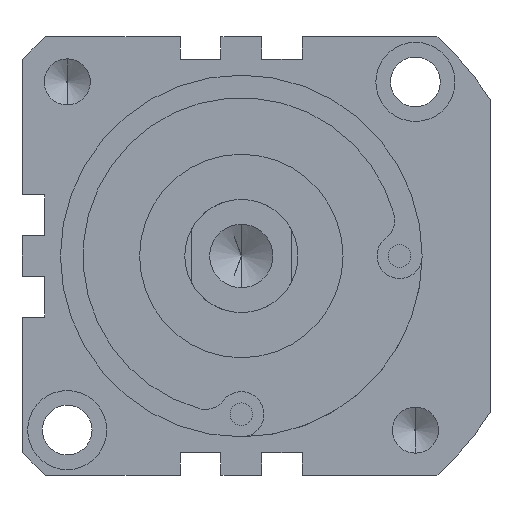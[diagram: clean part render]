
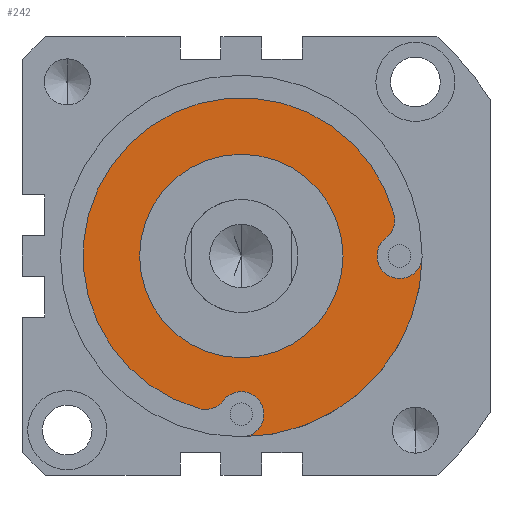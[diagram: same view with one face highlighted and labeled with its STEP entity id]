
A CAD part, front view. The second image highlights one B-rep face of the part: STEP entity #242.
In plain terms, the highlighted planar face has unit normal (0, -1, 0).
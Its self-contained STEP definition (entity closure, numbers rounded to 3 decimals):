
#15 = DIRECTION ( 'NONE',  ( 0., 0., -1. ) ) ;
#101 = FACE_BOUND ( 'NONE', #307, .T. ) ;
#108 = EDGE_CURVE ( 'NONE', #1350, #2079, #2213, .T. ) ;
#114 = DIRECTION ( 'NONE',  ( 0., 0., 1. ) ) ;
#155 = FACE_OUTER_BOUND ( 'NONE', #2412, .T. ) ;
#224 = VERTEX_POINT ( 'NONE', #778 ) ;
#242 = ADVANCED_FACE ( 'NONE', ( #155, #101 ), #1430, .T. ) ;
#259 = CIRCLE ( 'NONE', #1796, 22.5 ) ;
#307 = EDGE_LOOP ( 'NONE', ( #3809, #3306 ) ) ;
#347 = AXIS2_PLACEMENT_3D ( 'NONE', #791, #3450, #779 ) ;
#424 = VERTEX_POINT ( 'NONE', #3286 ) ;
#606 = VERTEX_POINT ( 'NONE', #1412 ) ;
#621 = ORIENTED_EDGE ( 'NONE', *, *, #1779, .T. ) ;
#734 = CARTESIAN_POINT ( 'NONE',  ( -3.973, -61.5, -31.964 ) ) ;
#767 = EDGE_CURVE ( 'NONE', #606, #2463, #2056, .T. ) ;
#778 = CARTESIAN_POINT ( 'NONE',  ( 31.964, -61.5, 3.973 ) ) ;
#779 = DIRECTION ( 'NONE',  ( 0., 0., 1. ) ) ;
#791 = CARTESIAN_POINT ( 'NONE',  ( 35., -61.5, 0. ) ) ;
#904 = ORIENTED_EDGE ( 'NONE', *, *, #2450, .F. ) ;
#1074 = DIRECTION ( 'NONE',  ( 0., 0., -1. ) ) ;
#1116 = CIRCLE ( 'NONE', #2678, 5. ) ;
#1124 = DIRECTION ( 'NONE',  ( 0., 1., 0. ) ) ;
#1158 = DIRECTION ( 'NONE',  ( 0., 0., 1. ) ) ;
#1186 = DIRECTION ( 'NONE',  ( 0., 0., 1. ) ) ;
#1328 = DIRECTION ( 'NONE',  ( 0., 1., 0. ) ) ;
#1350 = VERTEX_POINT ( 'NONE', #3888 ) ;
#1361 = AXIS2_PLACEMENT_3D ( 'NONE', #4033, #3391, #1754 ) ;
#1373 = CIRCLE ( 'NONE', #2022, 40. ) ;
#1399 = CARTESIAN_POINT ( 'NONE',  ( 35., -61.5, 0. ) ) ;
#1412 = CARTESIAN_POINT ( 'NONE',  ( 0., -61.5, 22.5 ) ) ;
#1430 = PLANE ( 'NONE',  #3018 ) ;
#1447 = VERTEX_POINT ( 'NONE', #1566 ) ;
#1566 = CARTESIAN_POINT ( 'NONE',  ( -9.27, -61.5, -33.75 ) ) ;
#1579 = CIRCLE ( 'NONE', #2185, 5. ) ;
#1606 = EDGE_CURVE ( 'NONE', #1447, #424, #1116, .T. ) ;
#1690 = AXIS2_PLACEMENT_3D ( 'NONE', #1399, #1696, #3341 ) ;
#1696 = DIRECTION ( 'NONE',  ( 0., 1., 0. ) ) ;
#1710 = EDGE_CURVE ( 'NONE', #2463, #606, #259, .T. ) ;
#1738 = VERTEX_POINT ( 'NONE', #3799 ) ;
#1754 = DIRECTION ( 'NONE',  ( 0., 0., 1. ) ) ;
#1763 = DIRECTION ( 'NONE',  ( 0., -1., 0. ) ) ;
#1779 = EDGE_CURVE ( 'NONE', #424, #2324, #1579, .T. ) ;
#1796 = AXIS2_PLACEMENT_3D ( 'NONE', #2789, #2457, #1186 ) ;
#1858 = AXIS2_PLACEMENT_3D ( 'NONE', #2413, #2748, #114 ) ;
#1933 = CIRCLE ( 'NONE', #1361, 5. ) ;
#2022 = AXIS2_PLACEMENT_3D ( 'NONE', #2354, #1328, #3702 ) ;
#2056 = CIRCLE ( 'NONE', #2483, 22.5 ) ;
#2079 = VERTEX_POINT ( 'NONE', #3370 ) ;
#2166 = CARTESIAN_POINT ( 'NONE',  ( -7.946, -61.5, -28.929 ) ) ;
#2181 = EDGE_CURVE ( 'NONE', #2079, #224, #4165, .T. ) ;
#2185 = AXIS2_PLACEMENT_3D ( 'NONE', #2166, #3477, #2847 ) ;
#2213 = CIRCLE ( 'NONE', #1690, 5. ) ;
#2276 = EDGE_CURVE ( 'NONE', #1350, #3738, #1373, .T. ) ;
#2324 = VERTEX_POINT ( 'NONE', #734 ) ;
#2354 = CARTESIAN_POINT ( 'NONE',  ( 0., -61.5, 0. ) ) ;
#2377 = CARTESIAN_POINT ( 'NONE',  ( 0., -61.5, -40. ) ) ;
#2409 = ORIENTED_EDGE ( 'NONE', *, *, #1606, .T. ) ;
#2412 = EDGE_LOOP ( 'NONE', ( #2859, #3848, #2952, #904, #2409, #621, #3766, #3930 ) ) ;
#2413 = CARTESIAN_POINT ( 'NONE',  ( 0., -61.5, 0. ) ) ;
#2439 = CARTESIAN_POINT ( 'NONE',  ( -7.946, -61.5, -28.929 ) ) ;
#2450 = EDGE_CURVE ( 'NONE', #1447, #1738, #2922, .T. ) ;
#2457 = DIRECTION ( 'NONE',  ( 0., 1., 0. ) ) ;
#2463 = VERTEX_POINT ( 'NONE', #3071 ) ;
#2483 = AXIS2_PLACEMENT_3D ( 'NONE', #3458, #1124, #3805 ) ;
#2678 = AXIS2_PLACEMENT_3D ( 'NONE', #2439, #3087, #1074 ) ;
#2748 = DIRECTION ( 'NONE',  ( 0., 1., 0. ) ) ;
#2784 = CARTESIAN_POINT ( 'NONE',  ( 0., -61.5, 0. ) ) ;
#2789 = CARTESIAN_POINT ( 'NONE',  ( 0., -61.5, 0. ) ) ;
#2847 = DIRECTION ( 'NONE',  ( 0., 0., -1. ) ) ;
#2859 = ORIENTED_EDGE ( 'NONE', *, *, #108, .T. ) ;
#2922 = CIRCLE ( 'NONE', #1858, 35. ) ;
#2952 = ORIENTED_EDGE ( 'NONE', *, *, #2989, .T. ) ;
#2989 = EDGE_CURVE ( 'NONE', #224, #1738, #3694, .T. ) ;
#2991 = CARTESIAN_POINT ( 'NONE',  ( 28.929, -61.5, 7.946 ) ) ;
#3010 = DIRECTION ( 'NONE',  ( 0., -1., 0. ) ) ;
#3018 = AXIS2_PLACEMENT_3D ( 'NONE', #2784, #1763, #1158 ) ;
#3071 = CARTESIAN_POINT ( 'NONE',  ( 0., -61.5, -22.5 ) ) ;
#3087 = DIRECTION ( 'NONE',  ( 0., -1., 0. ) ) ;
#3286 = CARTESIAN_POINT ( 'NONE',  ( -7.946, -61.5, -33.929 ) ) ;
#3306 = ORIENTED_EDGE ( 'NONE', *, *, #767, .T. ) ;
#3341 = DIRECTION ( 'NONE',  ( 0., 0., 1. ) ) ;
#3370 = CARTESIAN_POINT ( 'NONE',  ( 35., -61.5, -5. ) ) ;
#3391 = DIRECTION ( 'NONE',  ( 0., 1., 0. ) ) ;
#3450 = DIRECTION ( 'NONE',  ( 0., 1., 0. ) ) ;
#3458 = CARTESIAN_POINT ( 'NONE',  ( 0., -61.5, 0. ) ) ;
#3477 = DIRECTION ( 'NONE',  ( 0., -1., 0. ) ) ;
#3628 = AXIS2_PLACEMENT_3D ( 'NONE', #2991, #3010, #15 ) ;
#3665 = EDGE_CURVE ( 'NONE', #2324, #3738, #1933, .T. ) ;
#3694 = CIRCLE ( 'NONE', #3628, 5. ) ;
#3702 = DIRECTION ( 'NONE',  ( 0., 0., 1. ) ) ;
#3738 = VERTEX_POINT ( 'NONE', #2377 ) ;
#3766 = ORIENTED_EDGE ( 'NONE', *, *, #3665, .T. ) ;
#3799 = CARTESIAN_POINT ( 'NONE',  ( 33.75, -61.5, 9.27 ) ) ;
#3805 = DIRECTION ( 'NONE',  ( 0., 0., 1. ) ) ;
#3809 = ORIENTED_EDGE ( 'NONE', *, *, #1710, .T. ) ;
#3848 = ORIENTED_EDGE ( 'NONE', *, *, #2181, .T. ) ;
#3888 = CARTESIAN_POINT ( 'NONE',  ( 40., -61.5, 0. ) ) ;
#3930 = ORIENTED_EDGE ( 'NONE', *, *, #2276, .F. ) ;
#4033 = CARTESIAN_POINT ( 'NONE',  ( 0., -61.5, -35. ) ) ;
#4165 = CIRCLE ( 'NONE', #347, 5. ) ;
